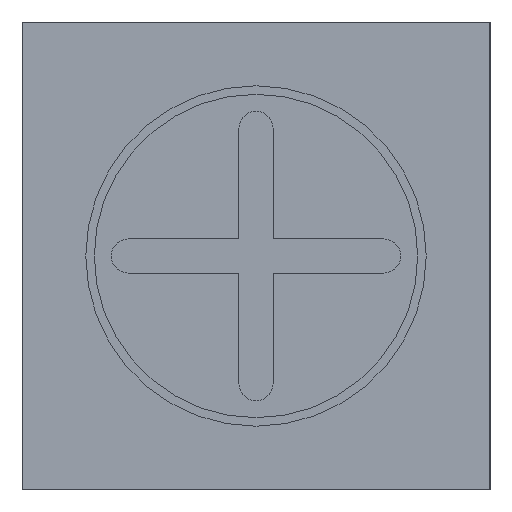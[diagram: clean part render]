
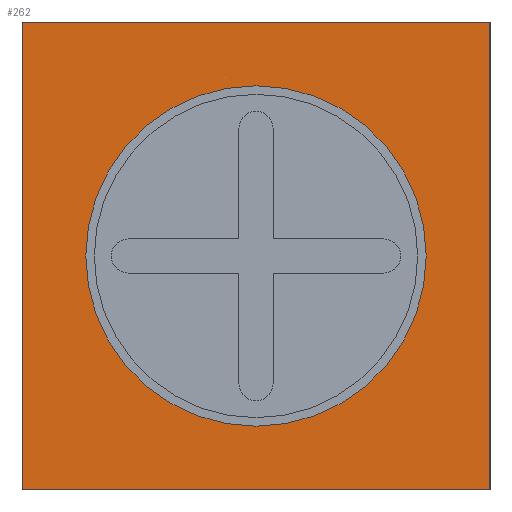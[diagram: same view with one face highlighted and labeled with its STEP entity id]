
A CAD part, left-side view. The second image highlights one B-rep face of the part: STEP entity #262.
In plain terms, the highlighted planar face has unit normal (-1, 0, 0).
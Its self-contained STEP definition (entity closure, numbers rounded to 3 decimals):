
#29 = AXIS2_PLACEMENT_3D ( 'NONE', #686, #75, #997 ) ;
#39 = DIRECTION ( 'NONE',  ( 0., -1., 0. ) ) ;
#71 = AXIS2_PLACEMENT_3D ( 'NONE', #1175, #1077, #982 ) ;
#75 = DIRECTION ( 'NONE',  ( -1., 0., 0. ) ) ;
#134 = EDGE_CURVE ( 'NONE', #304, #626, #655, .T. ) ;
#137 = AXIS2_PLACEMENT_3D ( 'NONE', #397, #484, #987 ) ;
#175 = CARTESIAN_POINT ( 'NONE',  ( -9.5, -2.75, 5.5 ) ) ;
#177 = EDGE_CURVE ( 'NONE', #923, #410, #561, .T. ) ;
#262 = ADVANCED_FACE ( 'NONE', ( #288, #1017 ), #506, .F. ) ;
#270 = VECTOR ( 'NONE', #39, 1000. ) ;
#280 = EDGE_CURVE ( 'NONE', #410, #900, #1010, .T. ) ;
#288 = FACE_BOUND ( 'NONE', #659, .T. ) ;
#294 = VECTOR ( 'NONE', #1031, 1000. ) ;
#304 = VERTEX_POINT ( 'NONE', #917 ) ;
#318 = ORIENTED_EDGE ( 'NONE', *, *, #177, .F. ) ;
#370 = ORIENTED_EDGE ( 'NONE', *, *, #1320, .T. ) ;
#397 = CARTESIAN_POINT ( 'NONE',  ( -9.5, 2.75, 5.5 ) ) ;
#409 = LINE ( 'NONE', #813, #1002 ) ;
#410 = VERTEX_POINT ( 'NONE', #513 ) ;
#457 = CARTESIAN_POINT ( 'NONE',  ( -9.5, -2.75, 0. ) ) ;
#472 = CARTESIAN_POINT ( 'NONE',  ( -9.5, 2.75, 5.5 ) ) ;
#484 = DIRECTION ( 'NONE',  ( 1., 0., 0. ) ) ;
#494 = CARTESIAN_POINT ( 'NONE',  ( -9.5, 2.75, 0. ) ) ;
#506 = PLANE ( 'NONE',  #137 ) ;
#513 = CARTESIAN_POINT ( 'NONE',  ( -9.5, -2.75, 5.5 ) ) ;
#558 = EDGE_LOOP ( 'NONE', ( #669, #641, #318, #370 ) ) ;
#561 = LINE ( 'NONE', #472, #270 ) ;
#626 = VERTEX_POINT ( 'NONE', #819 ) ;
#641 = ORIENTED_EDGE ( 'NONE', *, *, #280, .F. ) ;
#655 = CIRCLE ( 'NONE', #71, 2. ) ;
#659 = EDGE_LOOP ( 'NONE', ( #1020, #797 ) ) ;
#669 = ORIENTED_EDGE ( 'NONE', *, *, #1228, .T. ) ;
#686 = CARTESIAN_POINT ( 'NONE',  ( -9.5, 0., 2.75 ) ) ;
#797 = ORIENTED_EDGE ( 'NONE', *, *, #134, .F. ) ;
#813 = CARTESIAN_POINT ( 'NONE',  ( -9.5, 2.75, 5.5 ) ) ;
#819 = CARTESIAN_POINT ( 'NONE',  ( -9.5, 0., 4.75 ) ) ;
#893 = VECTOR ( 'NONE', #1294, 1000. ) ;
#900 = VERTEX_POINT ( 'NONE', #457 ) ;
#917 = CARTESIAN_POINT ( 'NONE',  ( -9.5, 0., 0.75 ) ) ;
#923 = VERTEX_POINT ( 'NONE', #1079 ) ;
#927 = CARTESIAN_POINT ( 'NONE',  ( -9.5, 2.75, 0. ) ) ;
#968 = EDGE_CURVE ( 'NONE', #626, #304, #1127, .T. ) ;
#982 = DIRECTION ( 'NONE',  ( 0., 0., 1. ) ) ;
#987 = DIRECTION ( 'NONE',  ( 0., 0., -1. ) ) ;
#997 = DIRECTION ( 'NONE',  ( 0., 0., 1. ) ) ;
#1002 = VECTOR ( 'NONE', #1121, 1000. ) ;
#1009 = VERTEX_POINT ( 'NONE', #494 ) ;
#1010 = LINE ( 'NONE', #175, #893 ) ;
#1017 = FACE_OUTER_BOUND ( 'NONE', #558, .T. ) ;
#1020 = ORIENTED_EDGE ( 'NONE', *, *, #968, .F. ) ;
#1031 = DIRECTION ( 'NONE',  ( 0., -1., 0. ) ) ;
#1077 = DIRECTION ( 'NONE',  ( -1., 0., 0. ) ) ;
#1079 = CARTESIAN_POINT ( 'NONE',  ( -9.5, 2.75, 5.5 ) ) ;
#1121 = DIRECTION ( 'NONE',  ( 0., 0., -1. ) ) ;
#1127 = CIRCLE ( 'NONE', #29, 2. ) ;
#1175 = CARTESIAN_POINT ( 'NONE',  ( -9.5, 0., 2.75 ) ) ;
#1228 = EDGE_CURVE ( 'NONE', #1009, #900, #1243, .T. ) ;
#1243 = LINE ( 'NONE', #927, #294 ) ;
#1294 = DIRECTION ( 'NONE',  ( 0., 0., -1. ) ) ;
#1320 = EDGE_CURVE ( 'NONE', #923, #1009, #409, .T. ) ;
